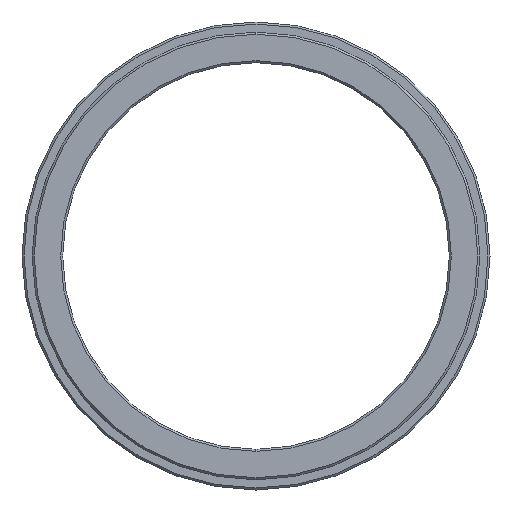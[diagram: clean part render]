
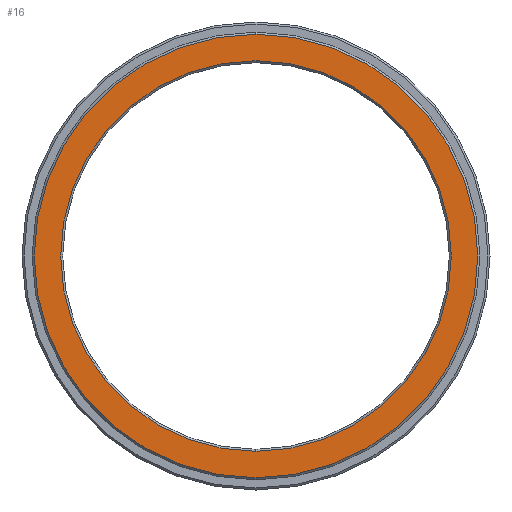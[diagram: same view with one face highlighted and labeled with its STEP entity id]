
A CAD part, left-side view. The second image highlights one B-rep face of the part: STEP entity #16.
In plain terms, the highlighted planar face has unit normal (-1, 0, 0).
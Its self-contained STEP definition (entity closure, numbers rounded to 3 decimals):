
#8 = DIRECTION ( 'NONE',  ( 0., 0., 1. ) ) ;
#11 = DIRECTION ( 'NONE',  ( 0., 0., 1. ) ) ;
#16 = ADVANCED_FACE ( 'NONE', ( #576, #756 ), #158, .F. ) ;
#26 = DIRECTION ( 'NONE',  ( 1., 0., 0. ) ) ;
#29 = EDGE_CURVE ( 'NONE', #295, #341, #740, .T. ) ;
#71 = EDGE_LOOP ( 'NONE', ( #675, #160 ) ) ;
#74 = CARTESIAN_POINT ( 'NONE',  ( 0., 0., 0. ) ) ;
#75 = EDGE_LOOP ( 'NONE', ( #193, #106 ) ) ;
#106 = ORIENTED_EDGE ( 'NONE', *, *, #29, .F. ) ;
#139 = DIRECTION ( 'NONE',  ( -1., 0., 0. ) ) ;
#147 = AXIS2_PLACEMENT_3D ( 'NONE', #148, #462, #11 ) ;
#148 = CARTESIAN_POINT ( 'NONE',  ( 0., 0., 0. ) ) ;
#150 = DIRECTION ( 'NONE',  ( 0., 0., 1. ) ) ;
#158 = PLANE ( 'NONE',  #416 ) ;
#160 = ORIENTED_EDGE ( 'NONE', *, *, #703, .T. ) ;
#177 = CARTESIAN_POINT ( 'NONE',  ( 0., 0., -21.8 ) ) ;
#193 = ORIENTED_EDGE ( 'NONE', *, *, #562, .F. ) ;
#212 = DIRECTION ( 'NONE',  ( 0., 0., 1. ) ) ;
#216 = CARTESIAN_POINT ( 'NONE',  ( 0., 0., 0. ) ) ;
#295 = VERTEX_POINT ( 'NONE', #497 ) ;
#329 = CARTESIAN_POINT ( 'NONE',  ( 0., 0., 0. ) ) ;
#341 = VERTEX_POINT ( 'NONE', #788 ) ;
#374 = AXIS2_PLACEMENT_3D ( 'NONE', #216, #603, #150 ) ;
#412 = DIRECTION ( 'NONE',  ( 0., 0., -1. ) ) ;
#416 = AXIS2_PLACEMENT_3D ( 'NONE', #479, #26, #412 ) ;
#439 = CIRCLE ( 'NONE', #715, 21.8 ) ;
#454 = CIRCLE ( 'NONE', #555, 19.2 ) ;
#461 = DIRECTION ( 'NONE',  ( -1., 0., 0. ) ) ;
#462 = DIRECTION ( 'NONE',  ( -1., 0., 0. ) ) ;
#479 = CARTESIAN_POINT ( 'NONE',  ( 0., 19.2, 0. ) ) ;
#497 = CARTESIAN_POINT ( 'NONE',  ( 0., 0., -19.2 ) ) ;
#555 = AXIS2_PLACEMENT_3D ( 'NONE', #74, #461, #8 ) ;
#562 = EDGE_CURVE ( 'NONE', #341, #295, #454, .T. ) ;
#576 = FACE_BOUND ( 'NONE', #75, .T. ) ;
#603 = DIRECTION ( 'NONE',  ( -1., 0., 0. ) ) ;
#607 = EDGE_CURVE ( 'NONE', #807, #629, #439, .T. ) ;
#629 = VERTEX_POINT ( 'NONE', #658 ) ;
#658 = CARTESIAN_POINT ( 'NONE',  ( 0., 0., 21.8 ) ) ;
#675 = ORIENTED_EDGE ( 'NONE', *, *, #607, .T. ) ;
#703 = EDGE_CURVE ( 'NONE', #629, #807, #727, .T. ) ;
#715 = AXIS2_PLACEMENT_3D ( 'NONE', #329, #139, #212 ) ;
#727 = CIRCLE ( 'NONE', #147, 21.8 ) ;
#740 = CIRCLE ( 'NONE', #374, 19.2 ) ;
#756 = FACE_OUTER_BOUND ( 'NONE', #71, .T. ) ;
#788 = CARTESIAN_POINT ( 'NONE',  ( 0., 0., 19.2 ) ) ;
#807 = VERTEX_POINT ( 'NONE', #177 ) ;
